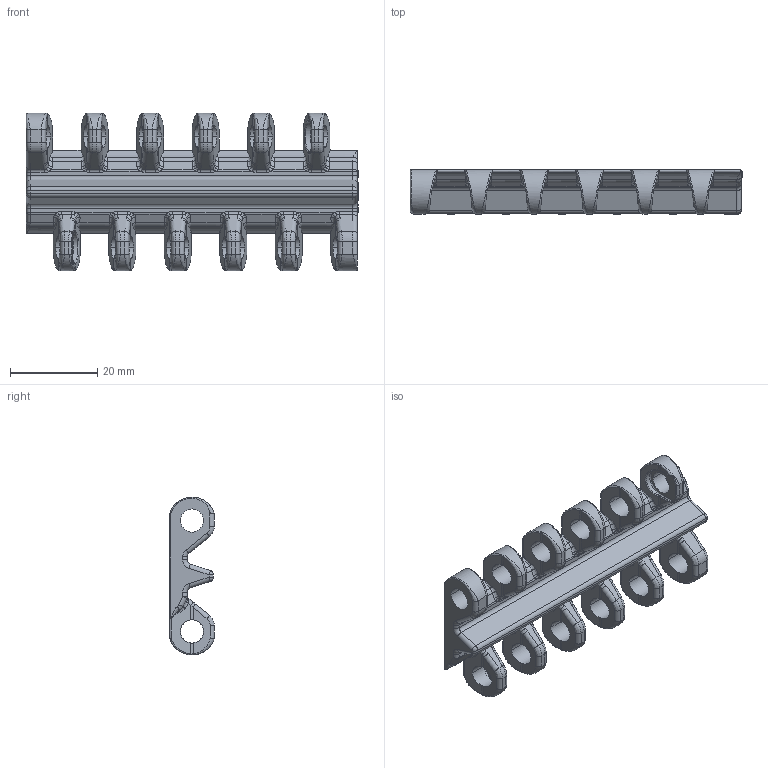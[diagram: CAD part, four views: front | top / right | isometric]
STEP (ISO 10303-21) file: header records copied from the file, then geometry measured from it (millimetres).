
FILE_DESCRIPTION((''),'2;1');
FILE_NAME('P924','2011-10-19T',('mth'),(''),'PRO/ENGINEER BY PARAMETRIC TECHNOLOGY CORPORATION, 2010280','PRO/ENGINEER BY PARAMETRIC TECHNOLOGY CORPORATION, 2010280','');
FILE_SCHEMA(('CONFIG_CONTROL_DESIGN','SHAPE_APPEARANCE_LAYERS_GROUPS'));
Products named in the file (1): P924
Bounding box: 76 x 10.2 x 36.09 mm (x, y, z)
Volume: 10288.4 mm3; surface area: 7508.6 mm2
Topology: 1 solids, 1 shells, 960 faces, 2476 edges, 1514 vertices
Faces by surface type: plane 352, bspline 314, cylinder 274, torus 14, sphere 6
Entity records: 79272 total; most frequent: CARTESIAN_POINT 58626, ORIENTED_EDGE 4952, DIRECTION 3330, EDGE_CURVE 2476, VERTEX_POINT 1514, VECTOR 1218, LINE 1218, AXIS2_PLACEMENT_3D 1056
